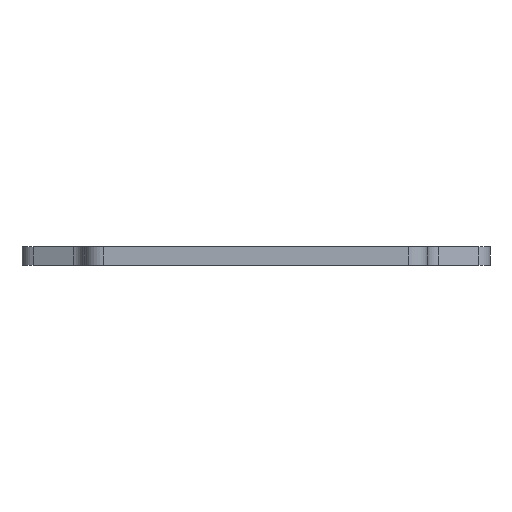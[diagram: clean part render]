
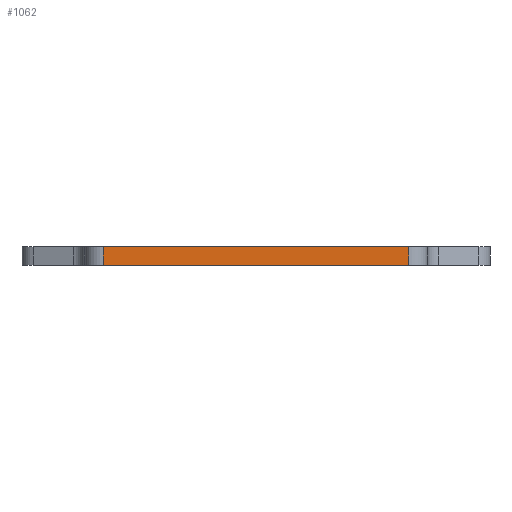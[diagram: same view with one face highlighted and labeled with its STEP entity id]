
A CAD part, front view. The second image highlights one B-rep face of the part: STEP entity #1062.
In plain terms, the highlighted planar face has unit normal (0, -1, 0).
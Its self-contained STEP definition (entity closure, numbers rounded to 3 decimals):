
#43=PLANE('',#1156);
#80=FACE_OUTER_BOUND('',#134,.T.);
#134=EDGE_LOOP('',(#783,#784,#785,#786));
#224=LINE('',#1678,#320);
#225=LINE('',#1681,#321);
#226=LINE('',#1683,#322);
#227=LINE('',#1684,#323);
#320=VECTOR('',#1356,10.);
#321=VECTOR('',#1359,10.);
#322=VECTOR('',#1360,10.);
#323=VECTOR('',#1361,10.);
#479=VERTEX_POINT('',#1671);
#482=VERTEX_POINT('',#1676);
#483=VERTEX_POINT('',#1680);
#484=VERTEX_POINT('',#1682);
#606=EDGE_CURVE('',#482,#479,#224,.T.);
#607=EDGE_CURVE('',#483,#482,#225,.T.);
#608=EDGE_CURVE('',#484,#483,#226,.T.);
#609=EDGE_CURVE('',#479,#484,#227,.T.);
#783=ORIENTED_EDGE('',*,*,#606,.F.);
#784=ORIENTED_EDGE('',*,*,#607,.F.);
#785=ORIENTED_EDGE('',*,*,#608,.F.);
#786=ORIENTED_EDGE('',*,*,#609,.F.);
#1062=ADVANCED_FACE('',(#80),#43,.T.);
#1156=AXIS2_PLACEMENT_3D('',#1679,#1357,#1358);
#1356=DIRECTION('',(0.,0.,1.));
#1357=DIRECTION('center_axis',(0.,-1.,0.));
#1358=DIRECTION('ref_axis',(1.,0.,0.));
#1359=DIRECTION('',(-1.,0.,0.));
#1360=DIRECTION('',(0.,0.,-1.));
#1361=DIRECTION('',(1.,0.,0.));
#1671=CARTESIAN_POINT('',(-24.5,-28.314,26.03));
#1676=CARTESIAN_POINT('',(-24.5,-28.314,23.03));
#1678=CARTESIAN_POINT('',(-24.5,-28.314,23.03));
#1679=CARTESIAN_POINT('Origin',(-27.5,-28.314,23.03));
#1680=CARTESIAN_POINT('',(24.5,-28.314,23.03));
#1681=CARTESIAN_POINT('',(27.5,-28.314,23.03));
#1682=CARTESIAN_POINT('',(24.5,-28.314,26.03));
#1683=CARTESIAN_POINT('',(24.5,-28.314,23.03));
#1684=CARTESIAN_POINT('',(27.5,-28.314,26.03));
